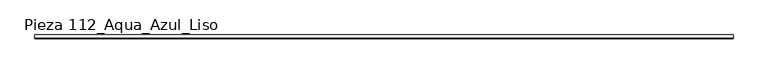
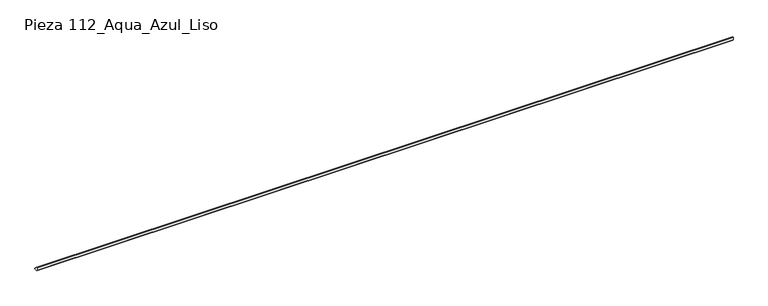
"""IFC4 building model written with IfcOpenShell, lengths in millimetres: slab geometry, ROSA GRES_112 : Pieza 112_Aqua_Azul_Liso."""

import ifcopenshell
import ifcopenshell.guid

model = None  # the IFC model being written
_history = None  # IfcOwnerHistory: only IFC2X3 demands one
_inside = {}  # id of a spatial element -> (the spatial element, [elements in it])
_under = {}  # id of a project, library or spatial element -> (it, [spatial elements below it])
_declared = {}  # id of a project -> (the project, [libraries it declares])
_typed = {}  # id of a type object -> (the type object, [elements of that type])
_made_of = {}  # id of a material, layer set ... -> (it, [elements and type objects made of it])


def new_model(schema):
    """Start an empty IFC model of exactly this schema.

    Asked for "IFC4X3", IfcOpenShell would pick the latest addendum, in which some entities
    have other attributes; the version numbers below select the first issue.
    IFC2X3 requires an IfcOwnerHistory on every rooted entity: one is made here for all.
    """
    global model, _history
    if schema == "IFC4X3":
        model = ifcopenshell.file(schema_version=(4, 3, 0, 0))
    else:
        model = ifcopenshell.file(schema=schema)
    _inside.clear()
    _under.clear()
    _declared.clear()
    _typed.clear()
    _made_of.clear()
    _history = None
    if model.schema == "IFC2X3":
        org = make("IfcOrganization", Name="unknown")
        user = make(
            "IfcPersonAndOrganization",
            ThePerson=make("IfcPerson", FamilyName="unknown"),
            TheOrganization=org,
        )
        app = make(
            "IfcApplication",
            ApplicationDeveloper=org,
            Version="unknown",
            ApplicationFullName="unknown",
            ApplicationIdentifier="unknown",
        )
        _history = make(
            "IfcOwnerHistory",
            OwningUser=user,
            OwningApplication=app,
            ChangeAction="ADDED",
            CreationDate=0,
        )
    return model


def make(cls, **values):
    """One entity of the class cls with the attributes given. An attribute that is None is left unset."""
    return model.create_entity(
        cls, **{name: value for name, value in values.items() if value is not None}
    )


def rooted(cls, **values):
    """An entity with a GlobalId (a new one), such as an element, a storey or a relation."""
    return make(cls, GlobalId=ifcopenshell.guid.new(), OwnerHistory=_history, **values)


def si_unit(unit_type, name, prefix=None):
    """IfcSIUnit, for example si_unit("LENGTHUNIT", "METRE", prefix="MILLI")."""
    return make("IfcSIUnit", UnitType=unit_type, Prefix=prefix, Name=name)


def assignment(units):
    """IfcUnitAssignment: the units of a project."""
    return None if units is None else make("IfcUnitAssignment", Units=units)


def point(xyz):
    """IfcCartesianPoint."""
    return None if xyz is None else make("IfcCartesianPoint", Coordinates=xyz)


def direction(xyz):
    """IfcDirection."""
    return None if xyz is None else make("IfcDirection", DirectionRatios=xyz)


def frame(location, z_axis=None, x_axis=None):
    """IfcAxis2Placement3D, a coordinate frame: its origin and axes. An axis left out is left unset."""
    return make(
        "IfcAxis2Placement3D",
        Location=point(location),
        Axis=direction(z_axis),
        RefDirection=direction(x_axis),
    )


def frame_2d(location, x_axis=None):
    """IfcAxis2Placement2D, a coordinate frame in the plane: its origin and x axis."""
    return make(
        "IfcAxis2Placement2D", Location=point(location), RefDirection=direction(x_axis)
    )


def origin():
    """The frame at (0, 0, 0) with its axes left unset."""
    return frame((0.0, 0.0, 0.0))


def place(relative_to, where):
    """IfcLocalPlacement: puts the frame where relative to a parent placement (None: the world)."""
    return make(
        "IfcLocalPlacement", PlacementRelTo=relative_to, RelativePlacement=where
    )


def context(
    kind, dimensions, precision=None, world=None, true_north=None, identifier=None
):
    """IfcGeometricRepresentationContext, for example the 3D "Model" context."""
    return make(
        "IfcGeometricRepresentationContext",
        ContextIdentifier=identifier,
        ContextType=kind,
        CoordinateSpaceDimension=dimensions,
        Precision=precision,
        WorldCoordinateSystem=world,
        TrueNorth=true_north,
    )


def project(units=None, contexts=None):
    """IfcProject with its units and contexts."""
    return rooted(
        "IfcProject",
        Name="project",
        RepresentationContexts=contexts,
        UnitsInContext=assignment(units),
    )


def spatial(cls, under=None, at=None, **own):
    """A site, building, storey or space (cls), placed at a placement, below another one or the project."""
    s = rooted(cls, ObjectPlacement=at, **own)
    if under is not None:
        _under.setdefault(under.id(), (under, []))[1].append(s)
    return s


def polyline(points):
    """IfcPolyline through the points."""
    return make("IfcPolyline", Points=[point(p) for p in points])


def circle_curve(where, radius):
    """IfcCircle in the frame where."""
    return make("IfcCircle", Position=where, Radius=radius)


def trimmed(basis, trim1, trim2, sense, master):
    """IfcTrimmedCurve: the piece of a basis curve between two trims."""
    return make(
        "IfcTrimmedCurve",
        BasisCurve=basis,
        Trim1=trim1,
        Trim2=trim2,
        SenseAgreement=sense,
        MasterRepresentation=master,
    )


def segment(curve, same_sense, transition):
    """IfcCompositeCurveSegment."""
    return make(
        "IfcCompositeCurveSegment",
        Transition=transition,
        SameSense=same_sense,
        ParentCurve=curve,
    )


def composite_curve(segments, self_intersect=None):
    """IfcCompositeCurve: segments joined end to end."""
    return make("IfcCompositeCurve", Segments=segments, SelfIntersect=self_intersect)


def outline(outer, holes=None, kind="AREA"):
    """IfcArbitraryClosedProfileDef: a profile drawn as a closed curve; with holes, ...WithVoids."""
    if holes is None:
        return make("IfcArbitraryClosedProfileDef", ProfileType=kind, OuterCurve=outer)
    return make(
        "IfcArbitraryProfileDefWithVoids",
        ProfileType=kind,
        OuterCurve=outer,
        InnerCurves=holes,
    )


def extrude(swept, where, along, depth):
    """IfcExtrudedAreaSolid: the profile swept, set in the frame where, extruded along a direction by depth."""
    return make(
        "IfcExtrudedAreaSolid",
        SweptArea=swept,
        Position=where,
        ExtrudedDirection=direction(along),
        Depth=depth,
    )


def shape(context_of_items, identifier, shape_type, items):
    """IfcShapeRepresentation: the items that make up one representation, for example the "Body"."""
    return make(
        "IfcShapeRepresentation",
        ContextOfItems=context_of_items,
        RepresentationIdentifier=identifier,
        RepresentationType=shape_type,
        Items=items,
    )


def source(mapping_origin, context_of_items, identifier, shape_type, items):
    """IfcRepresentationMap: a shape defined once, which mapped items show again and again."""
    return make(
        "IfcRepresentationMap",
        MappingOrigin=mapping_origin,
        MappedRepresentation=shape(context_of_items, identifier, shape_type, items),
    )


def transform(
    local_origin,
    x_axis=None,
    y_axis=None,
    z_axis=None,
    scale=None,
    scale2=None,
    scale3=None,
    uniform=True,
):
    """IfcCartesianTransformationOperator3D, or its non-uniform kind. x_axis, y_axis, z_axis: its Axis1, 2, 3."""
    if uniform:
        return make(
            "IfcCartesianTransformationOperator3D",
            Axis1=direction(x_axis),
            Axis2=direction(y_axis),
            LocalOrigin=point(local_origin),
            Scale=scale,
            Axis3=direction(z_axis),
        )
    return make(
        "IfcCartesianTransformationOperator3DnonUniform",
        Axis1=direction(x_axis),
        Axis2=direction(y_axis),
        LocalOrigin=point(local_origin),
        Scale=scale,
        Axis3=direction(z_axis),
        Scale2=scale2,
        Scale3=scale3,
    )


def mapped(mapping_source, mapping_target):
    """IfcMappedItem: shows the shape of a source again, moved by a transform."""
    return make(
        "IfcMappedItem", MappingSource=mapping_source, MappingTarget=mapping_target
    )


def made_of(thing, what):
    """Note that an element or type object is made of a material, layer set ...; save() writes the relation."""
    if what is not None:
        _made_of.setdefault(what.id(), (what, []))[1].append(thing)
    return thing


def element(
    cls,
    number,
    at=None,
    inside=None,
    cuts=None,
    type_object=None,
    material=None,
    context=None,
    identifier="Body",
    shape_type=None,
    held_by="IfcProductDefinitionShape",
    body=None,
    shapes=None,
    **own,
):
    """One element of the class cls, such as IfcWall. Its Tag is "e" and its number.

    at: its placement. inside: the storey or other place that contains it. cuts: it is an
    opening in that element (IfcRelVoidsElement). A single representation is given by context,
    identifier, shape_type and body (its items); several are given by shapes. held_by: the class
    of the entity that holds the representations. save() writes the other relations.
    """
    e = rooted(cls, Tag="e%d" % number, ObjectPlacement=at, **own)
    if body is not None:
        shapes = [shape(context, identifier, shape_type, body)]
    if shapes is not None:
        e.Representation = make(held_by, Representations=shapes)
    if inside is not None:
        _inside.setdefault(inside.id(), (inside, []))[1].append(e)
    if cuts is not None:
        rooted(
            "IfcRelVoidsElement", RelatingBuildingElement=cuts, RelatedOpeningElement=e
        )
    if type_object is not None:
        _typed.setdefault(type_object.id(), (type_object, []))[1].append(e)
    return made_of(e, material)


def aggregate(whole, parts):
    """IfcRelAggregates: a whole, such as a stair, and the parts it consists of."""
    return rooted("IfcRelAggregates", RelatingObject=whole, RelatedObjects=parts)


def save(model, path):
    """Write the relations noted so far, then the file.

    IfcRelAggregates (storeys below a building ...), IfcRelContainedInSpatialStructure (elements
    in a storey), IfcRelDefinesByType, IfcRelAssociatesMaterial and IfcRelDeclares: one each for
    every whole, place, type object, material and project.
    """
    for whole, parts in _under.values():
        aggregate(whole, parts)
    for where, things in _inside.values():
        rooted(
            "IfcRelContainedInSpatialStructure",
            RelatedElements=things,
            RelatingStructure=where,
        )
    for kind, things in _typed.values():
        rooted("IfcRelDefinesByType", RelatedObjects=things, RelatingType=kind)
    for what, things in _made_of.values():
        rooted("IfcRelAssociatesMaterial", RelatedObjects=things, RelatingMaterial=what)
    for by, libraries in _declared.values():
        rooted("IfcRelDeclares", RelatingContext=by, RelatedDefinitions=libraries)
    model.write(path)


def pieza_112_aqua_azul_liso_9b5f858b(model_context):
    return source(origin(), model_context, "Body", "SweptSolid", [
        extrude(outline(composite_curve([segment(polyline([(0.0, 8.7114978), (0.0, 40.0), (9.9734114, 40.0)]), True, "CONTINUOUS"), segment(trimmed(circle_curve(frame_2d((39.9955547, 39.9955547)), 30.0221435), [point((9.9734114, 40.0))], [point((40.0, 9.9734114))], True, "CARTESIAN"), True, "CONTINUOUS"), segment(polyline([(40.0, 9.9734114), (40.0, 0.0), (8.7114978, 0.0), (0.0, 8.7114978)]), True, "CONTINUOUS")], self_intersect=False)), frame((0.0, 0.0, 0.0), z_axis=(1.0, 0.0, 0.0), x_axis=(0.0, 1.0, 0.0)), (0.0, 0.0, 1.0), 7500.1759483),
    ])


if __name__ == "__main__":
    model = new_model("IFC4")
    model_context = context("Model", 3, world=origin())
    ifc_project = project(units=[si_unit("LENGTHUNIT", "METRE", prefix="MILLI")], contexts=[model_context])
    site = spatial("IfcSite", under=ifc_project)
    building = spatial("IfcBuilding", under=site)
    placement = place(None, origin())
    pieza_112_aqua_azul_liso_shape = pieza_112_aqua_azul_liso_9b5f858b(model_context)
    element("IfcSlab", 1, ObjectType="ROSA GRES_112 : Pieza 112_Aqua_Azul_Liso", at=placement, inside=building, context=model_context, shape_type="MappedRepresentation", body=[
        mapped(pieza_112_aqua_azul_liso_shape, transform((0.0, 0.0, 0.0), x_axis=(1.0, 0.0, 0.0), y_axis=(0.0, 1.0, 0.0), z_axis=(0.0, 0.0, 1.0))),
    ])
    save(model, "model.ifc")
